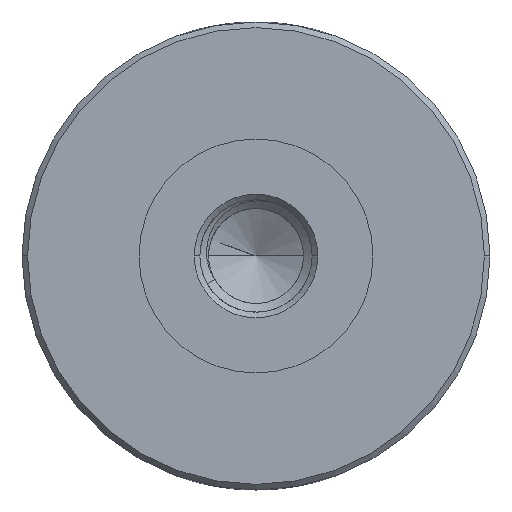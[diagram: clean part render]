
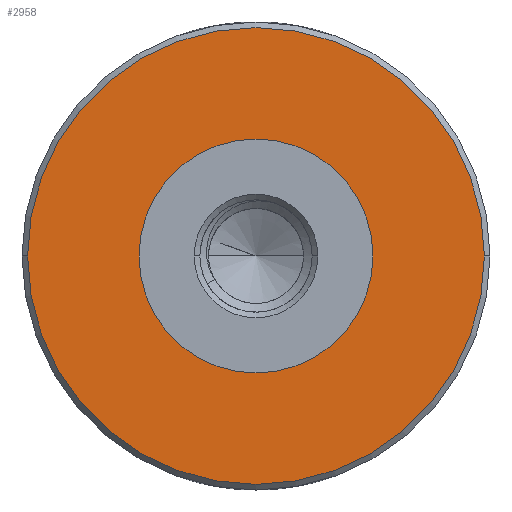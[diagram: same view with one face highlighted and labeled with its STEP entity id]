
A CAD part, front view. The second image highlights one B-rep face of the part: STEP entity #2958.
In plain terms, the highlighted planar face has unit normal (0, -1, 0).
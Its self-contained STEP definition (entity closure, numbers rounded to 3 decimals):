
#1=CARTESIAN_POINT('',(0.,-75.,0.));
#2=DIRECTION('',(0.,1.,0.));
#3=DIRECTION('',(1.,0.,0.));
#4=AXIS2_PLACEMENT_3D('',#1,#2,#3);
#6=CARTESIAN_POINT('',(0.,-75.,0.));
#7=DIRECTION('',(0.,1.,0.));
#8=DIRECTION('',(-1.,0.,0.));
#9=AXIS2_PLACEMENT_3D('',#6,#7,#8);
#11=CARTESIAN_POINT('',(0.,-75.,0.));
#12=DIRECTION('',(0.,-1.,0.));
#13=DIRECTION('',(-1.,0.,0.));
#14=AXIS2_PLACEMENT_3D('',#11,#12,#13);
#16=CARTESIAN_POINT('',(0.,-75.,0.));
#17=DIRECTION('',(0.,-1.,0.));
#18=DIRECTION('',(1.,0.,0.));
#19=AXIS2_PLACEMENT_3D('',#16,#17,#18);
#2831=CARTESIAN_POINT('',(6.25,-75.,0.));
#2832=VERTEX_POINT('',#2831);
#2833=CARTESIAN_POINT('',(-6.25,-75.,0.));
#2834=VERTEX_POINT('',#2833);
#2917=CARTESIAN_POINT('',(-12.2,-75.,0.));
#2918=CARTESIAN_POINT('',(12.2,-75.,0.));
#2919=VERTEX_POINT('',#2917);
#2920=VERTEX_POINT('',#2918);
#2941=CARTESIAN_POINT('',(0.,-75.,0.));
#2942=DIRECTION('',(0.,1.,0.));
#2943=DIRECTION('',(1.,0.,0.));
#2944=AXIS2_PLACEMENT_3D('',#2941,#2942,#2943);
#2945=PLANE('',#2944);
#2947=ORIENTED_EDGE('',*,*,#2946,.F.);
#2949=ORIENTED_EDGE('',*,*,#2948,.F.);
#2950=EDGE_LOOP('',(#2947,#2949));
#2951=FACE_OUTER_BOUND('',#2950,.F.);
#2953=ORIENTED_EDGE('',*,*,#2952,.F.);
#2955=ORIENTED_EDGE('',*,*,#2954,.F.);
#2956=EDGE_LOOP('',(#2953,#2955));
#2957=FACE_BOUND('',#2956,.F.);
#2958=ADVANCED_FACE('',(#2951,#2957),#2945,.F.);
#5=CIRCLE('',#4,6.25);
#10=CIRCLE('',#9,6.25);
#15=CIRCLE('',#14,12.2);
#20=CIRCLE('',#19,12.2);
#2946=EDGE_CURVE('',#2919,#2920,#15,.T.);
#2948=EDGE_CURVE('',#2920,#2919,#20,.T.);
#2952=EDGE_CURVE('',#2832,#2834,#5,.T.);
#2954=EDGE_CURVE('',#2834,#2832,#10,.T.);
